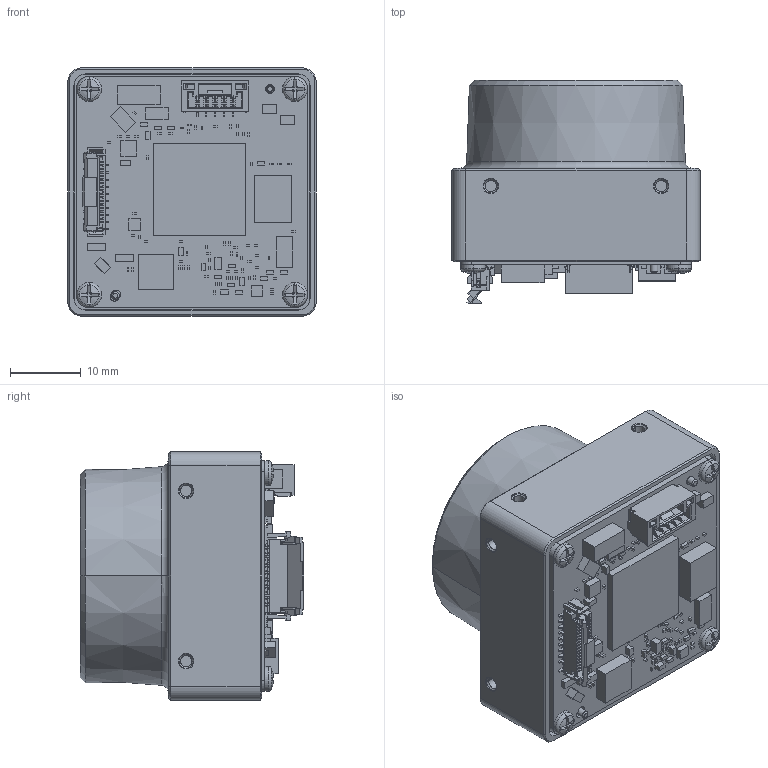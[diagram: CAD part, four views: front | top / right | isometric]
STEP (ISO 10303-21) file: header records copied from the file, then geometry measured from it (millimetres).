
FILE_DESCRIPTION((''),'2;1');
FILE_NAME('353519-1304_BIGSEN0001','2024-06-25T14:45:02',('331929'),(''),'CREO PARAMETRIC BY PTC INC, 2020184','CREO PARAMETRIC BY PTC INC, 2020184','');
FILE_SCHEMA(('CONFIG_CONTROL_DESIGN','SHAPE_APPEARANCE_LAYERS_GROUPS'));
Products named in the file (1): 353519-1304_BIGSEN0001
Bounding box: 35 x 31.46 x 35 mm (x, y, z)
Volume: 17903.8 mm3; surface area: 13329.6 mm2
Topology: 103 solids, 144 shells, 3576 faces, 10320 edges, 6751 vertices
Faces by surface type: plane 2376, cylinder 1003, cone 116, torus 39, sphere 24, bspline 18
Entity records: 168019 total; most frequent: CARTESIAN_POINT 26442, ORIENTED_EDGE 20454, DIRECTION 19375, PRESENTATION_STYLE_ASSIGNMENT 12449, STYLED_ITEM 10426, CURVE_STYLE 10292, EDGE_CURVE 10292, VECTOR 7609
